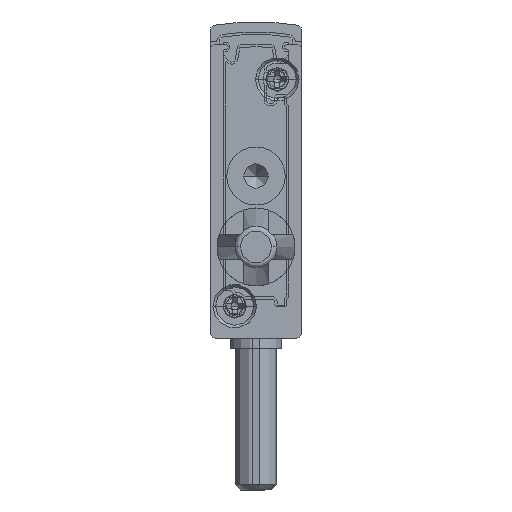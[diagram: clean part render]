
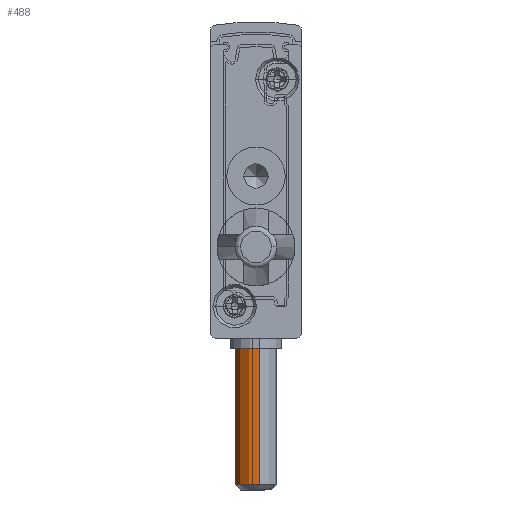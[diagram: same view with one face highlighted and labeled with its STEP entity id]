
A CAD part, front view. The second image highlights one B-rep face of the part: STEP entity #488.
In plain terms, the highlighted cylindrical face has radius 2 mm (diameter 4 mm), a partial arc.
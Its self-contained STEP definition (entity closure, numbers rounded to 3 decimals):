
#194 = CARTESIAN_POINT ( 'NONE',  ( -4.5, 2342.5, -15. ) ) ;
#329 = CARTESIAN_POINT ( 'NONE',  ( -4.801, 2344.477, -14.5 ) ) ;
#488 = ADVANCED_FACE ( 'NONE', ( #33134 ), #24425, .T. ) ;
#1233 = VECTOR ( 'NONE', #9022, 1000. ) ;
#1349 = CARTESIAN_POINT ( 'NONE',  ( -4.801, 2344.477, -15. ) ) ;
#1639 = CARTESIAN_POINT ( 'NONE',  ( -4.199, 2340.523, -15. ) ) ;
#1689 = AXIS2_PLACEMENT_3D ( 'NONE', #27517, #3350, #22322 ) ;
#3350 = DIRECTION ( 'NONE',  ( 0., 0., -1. ) ) ;
#4140 = CARTESIAN_POINT ( 'NONE',  ( -4.199, 2340.523, -1. ) ) ;
#4425 = VECTOR ( 'NONE', #22778, 1000. ) ;
#6578 = CARTESIAN_POINT ( 'NONE',  ( -4.5, 2342.5, -14.5 ) ) ;
#8385 = ORIENTED_EDGE ( 'NONE', *, *, #20976, .F. ) ;
#8461 = AXIS2_PLACEMENT_3D ( 'NONE', #194, #34275, #21093 ) ;
#9022 = DIRECTION ( 'NONE',  ( 0., 0., 1. ) ) ;
#11146 = LINE ( 'NONE', #1349, #1233 ) ;
#15743 = VERTEX_POINT ( 'NONE', #19991 ) ;
#18281 = ORIENTED_EDGE ( 'NONE', *, *, #30861, .T. ) ;
#19112 = VERTEX_POINT ( 'NONE', #4140 ) ;
#19589 = CIRCLE ( 'NONE', #1689, 2. ) ;
#19991 = CARTESIAN_POINT ( 'NONE',  ( -4.199, 2340.523, -14.5 ) ) ;
#20154 = LINE ( 'NONE', #1639, #4425 ) ;
#20420 = ORIENTED_EDGE ( 'NONE', *, *, #24698, .T. ) ;
#20976 = EDGE_CURVE ( 'NONE', #27568, #29983, #11146, .T. ) ;
#21093 = DIRECTION ( 'NONE',  ( -0.15, 0.989, 0. ) ) ;
#22322 = DIRECTION ( 'NONE',  ( 0.15, -0.989, 0. ) ) ;
#22778 = DIRECTION ( 'NONE',  ( 0., 0., 1. ) ) ;
#24425 = CYLINDRICAL_SURFACE ( 'NONE', #8461, 2. ) ;
#24611 = EDGE_LOOP ( 'NONE', ( #27007, #20420, #18281, #8385 ) ) ;
#24698 = EDGE_CURVE ( 'NONE', #15743, #19112, #20154, .T. ) ;
#25015 = DIRECTION ( 'NONE',  ( 0.15, -0.989, 0. ) ) ;
#27007 = ORIENTED_EDGE ( 'NONE', *, *, #30460, .T. ) ;
#27517 = CARTESIAN_POINT ( 'NONE',  ( -4.5, 2342.5, -1. ) ) ;
#27568 = VERTEX_POINT ( 'NONE', #329 ) ;
#27900 = DIRECTION ( 'NONE',  ( 0., 0., 1. ) ) ;
#28385 = CARTESIAN_POINT ( 'NONE',  ( -4.801, 2344.477, -1. ) ) ;
#29944 = CIRCLE ( 'NONE', #31591, 2. ) ;
#29983 = VERTEX_POINT ( 'NONE', #28385 ) ;
#30460 = EDGE_CURVE ( 'NONE', #27568, #15743, #29944, .T. ) ;
#30861 = EDGE_CURVE ( 'NONE', #19112, #29983, #19589, .T. ) ;
#31591 = AXIS2_PLACEMENT_3D ( 'NONE', #6578, #27900, #25015 ) ;
#33134 = FACE_OUTER_BOUND ( 'NONE', #24611, .T. ) ;
#34275 = DIRECTION ( 'NONE',  ( 0., 0., 1. ) ) ;
